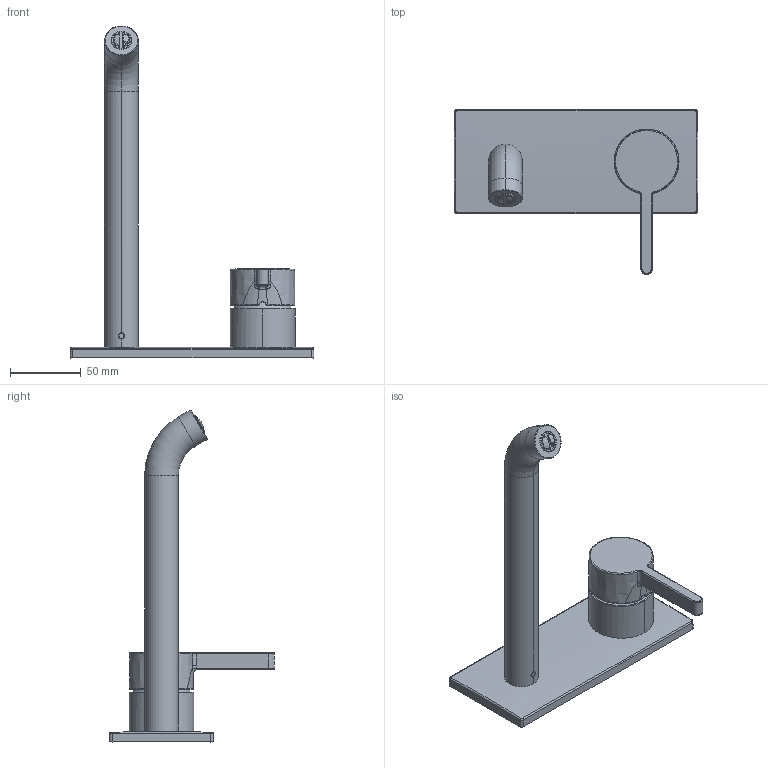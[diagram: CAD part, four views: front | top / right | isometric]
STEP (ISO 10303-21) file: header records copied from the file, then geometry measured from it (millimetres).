
FILE_DESCRIPTION((''),'2;1');
FILE_NAME('11422034','2018-10-02T',('DB991'),(''),'CREO PARAMETRIC BY PTC INC, 2016260','CREO PARAMETRIC BY PTC INC, 2016260','');
FILE_SCHEMA(('CONFIG_CONTROL_DESIGN'));
Length unit declared in the file: millimetre
Products named in the file (1): 11422034
Bounding box: 172.84 x 117.02 x 235.22 mm (x, y, z)
Volume: 291637.4 mm3; surface area: 58069.8 mm2
Topology: 1 solids, 4 shells, 242 faces, 628 edges, 405 vertices
Faces by surface type: plane 87, torus 84, cylinder 32, bspline 18, sphere 15, cone 6
Entity records: 9310 total; most frequent: CARTESIAN_POINT 3635, ORIENTED_EDGE 1254, DIRECTION 1104, EDGE_CURVE 627, AXIS2_PLACEMENT_3D 472, VERTEX_POINT 405, EDGE_LOOP 254, CIRCLE 248
